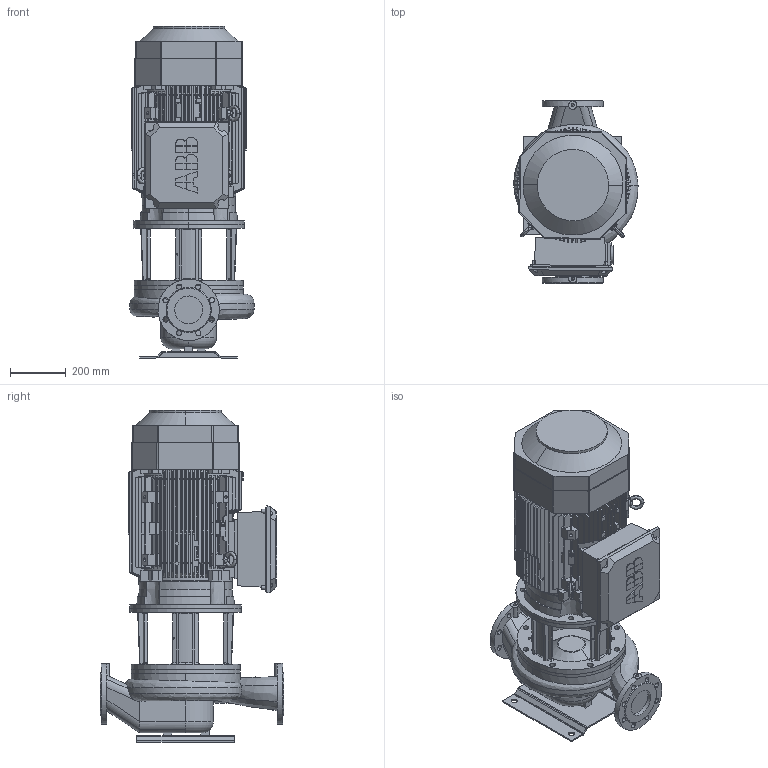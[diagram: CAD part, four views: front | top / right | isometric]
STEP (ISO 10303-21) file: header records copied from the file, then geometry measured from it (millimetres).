
FILE_DESCRIPTION(('STEP AP214'),'1');
FILE_NAME('export.stp','2018-05-30T06:51:15',(' '),(' '),'Spatial InterOp 3D',' ',' ');
FILE_SCHEMA(('AUTOMOTIVE_DESIGN { 1 0 10303 214 1 1 1 1 }'));
Length unit declared in the file: millimetre
Products named in the file (20): W_L100S2SD370; V_TLL100SAL1202; V_PPL100S; P100496; P100495; P100342; IEC-200; -simplified-simplified_parts_Sta; 3GZV183002-193006-183002-183999_; 3GZV311000-999999-324000-324001_; -simplified-simplified_parts_Ter; 3GZV244000-310999-294000-299999_; -simplified-simplified_parts_M32; -simplified-simplified_parts_Fan; Implementation-STANDARD_PARTS_Li; ICE200_FRAME; P100781
Assembly tree (21 placements, depth 4):
  W_L100S2SD370
    V_TLL100SAL1202
    V_PPL100S
    P100496
      P100495  x2
      P100342
    ICE200_FRAME
      IEC-200
        -simplified-simplified_parts_Sta
        3GZV183002-193006-183002-183999_
        3GZV311000-999999-324000-324001_
        -simplified-simplified_parts_Ter
        -simplified-simplified_parts_Ter
        3GZV244000-310999-294000-299999_
        3GZV244000-310999-294000-299999_
        3GZV244000-310999-294000-299999_
        -simplified-simplified_parts_M32
        -simplified-simplified_parts_Fan
        Implementation-STANDARD_PARTS_Li  x2
      P100781
Bounding box: 446.23 x 660 x 1193.03 mm (x, y, z)
Volume: 113931782.2 mm3; surface area: 5685318.4 mm2
Topology: 13 solids, 262 shells, 2086 faces, 6349 edges, 4537 vertices
Faces by surface type: bspline 1716, cylinder 212, plane 96, torus 34, cone 28
Entity records: 114272 total; most frequent: CARTESIAN_POINT 39212, ORIENTED_EDGE 11240, STYLED_ITEM 6201, PRESENTATION_STYLE_ASSIGNMENT 6201, COLOUR_RGB 6201, EDGE_CURVE 6156, VERTEX_POINT 4379, CURVE_STYLE 4140
